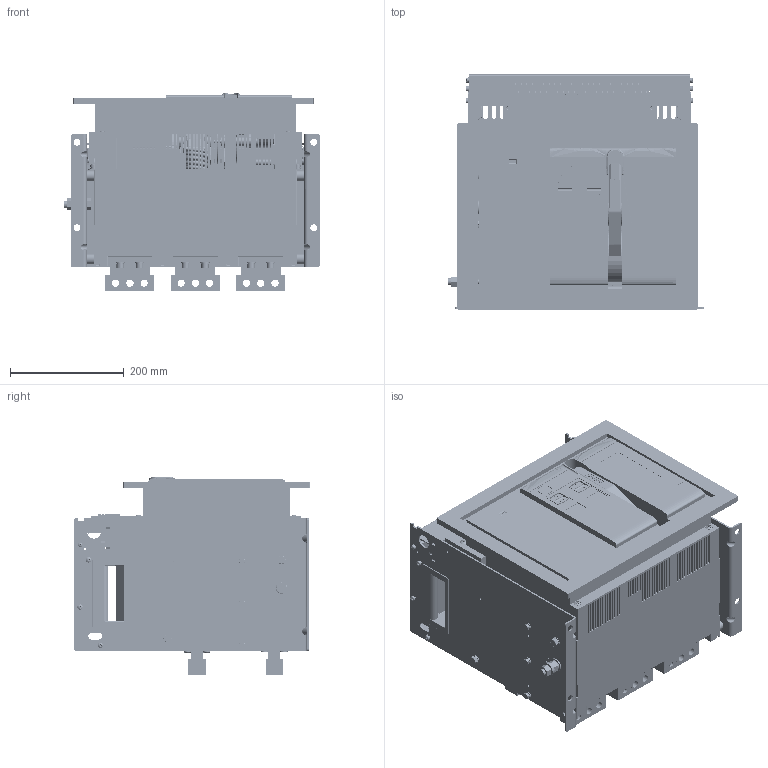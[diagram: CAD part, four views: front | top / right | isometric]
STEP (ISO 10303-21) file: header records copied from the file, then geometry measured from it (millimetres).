
FILE_DESCRIPTION (( 'STEP AP214' ), '1' );
FILE_NAME ('TGW1N-4000 F 3P 2900A-3200A.STEP', '2026-06-01T11:19:20', ( '' ), ( '' ), 'SwSTEP 2.0', 'SolidWorks 2024', '' );
FILE_SCHEMA (( 'AUTOMOTIVE_DESIGN' ));
Length unit declared in the file: millimetre
Products named in the file (233): GB_T93-8_AF6.stp; 8TZD_947_1002_AF10.stp; GB_T5782-M6X25_AF8.stp; 6TZD_262_6000_AF5.stp; 8TZD_300_1234_AF5.stp; 5TZD_580_1026_AF5_ASM.stp; 8TZD_941_1000_AF10.stp; 5TZD_558_1207.stp; GB_T5782-M6X25_AF10.stp; 8TZD_399_1002.stp; GB_T848-8_AF6.stp; 8TZD_260_1043_AF1.stp; GB_T9074_4-M5X10.stp; 8TZD_043_1102_AF1.stp; 111111111.stp; 5TZD_580_1024_AF4_ASM.stp; GB_T70_1-M8X70_AF6.stp; GB_T9074_4-M6X80_AF6.stp; 8TZD_742_6174.stp; 6TZD_262_6000_AF8.stp; 8TZD_212_1012_AF9.stp; GB_T6170-M6_AF6.stp; 8TZD_947_1002_AF13.stp; 5TZD_300_6022_ASM.stp; TENGEN_Рамка_3200-6300_Fixed; 8TZD_206_1018_AF7.stp; 44444444444.stp; GB_T819_1-M6X16_AF17.stp; 8TZD_941_1000_AF6.stp; 8TZD_947_1003.stp; 5TZD_050_1032_ASM.stp; TGW1N-4000 F 3P 2900A-3200A.stp; 5TZD_552_1181_AF3_ASM.stp; 2000SB_ASM.stp; GB_T6170-M6_AF10.stp; 5TZD_050_1013_ASM.stp; 8TZD_947_1002_AF11.stp; 8TZD_947_1002_AF14.stp; GB_T819_1-M6X16_AF9.stp; 8TZD_161_1041_AF1.stp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
Assembly tree (381 placements, depth 6):
  TGW1N-4000 F 3P 2900A-3200A
    TGW1N-4000 F 3P 2900A-3200A.stp
      5TZD_024_1265_AF1_ASM.stp
        5TZD_024_1263_AF1_ASM.stp
          8TZD_024_6038_AF1.stp
          8TZD_947_1003_AF2.stp
          8TZD_947_1003_AF3.stp
          8TZD_947_1002_AF8.stp
          8TZD_947_1002_AF9.stp
          8TZD_947_1002_AF10.stp
          8TZD_947_1002_AF11.stp
          8TZD_947_1002_AF12.stp
          GB_T809-M6X12-B_AF3.stp
          GB_T809-M6X12-B_AF4.stp
        5TZD_580_1026_AF3_ASM.stp
          5TZD_580_1024_AF3_ASM.stp
            8TZD_580_1091_AF3.stp
          5TZD_141_1019_AF3_ASM.stp
            8TZD_206_1018_AF7.stp
          8TZD_043_1228_AF3.stp
          8TZD_104_1084_AF3.stp
          GB_T845-ST6_3X16-C_AF18.stp
          GB_T845-ST6_3X16-C_AF19.stp
          GB_T845-ST6_3X16-C_AF20.stp
          GB_T5782-M6X25_AF6.stp
          GB_T6170-M6_AF6.stp
          GB_T5782-M6X25_AF7.stp
          GB_T6170-M6_AF7.stp
        5TZD_580_1026_AF4_ASM.stp
          5TZD_580_1024_AF4_ASM.stp
            8TZD_580_1091_AF4.stp
          8TZD_043_1228_AF4.stp
          GB_T5782-M6X25_AF8.stp
          GB_T6170-M6_AF8.stp
          GB_T5782-M6X25_AF9.stp
          GB_T6170-M6_AF9.stp
        5TZD_580_1026_AF5_ASM.stp
          5TZD_580_1024_AF5_ASM.stp
            8TZD_580_1091_AF5.stp
          5TZD_141_1020_AF5_ASM.stp
            8TZD_206_1018_AF10.stp
          8TZD_043_1228_AF5.stp
          8TZD_104_1084_AF5.stp
          8TZD_300_1234_AF5.stp
          GB_T845-ST6_3X16-C_AF33.stp
          GB_T845-ST6_3X16-C_AF34.stp
          GB_T845-ST6_3X16-C_AF35.stp
          GB_T5782-M6X25_AF10.stp
          GB_T6170-M6_AF10.stp
          GB_T5782-M6X25_AF11.stp
          GB_T6170-M6_AF11.stp
        8TZD_156_1099_AF3.stp
        8TZD_156_1099_AF4.stp
        8TZD_156_1099_AF5.stp
        GB_T97_1_6_AF11.stp
        GB_T818-M6X35_AF3.stp
        GB_T97_1_6_AF14.stp
        GB_T818-M6X35_AF4.stp
        GB_T97_1_6_AF17.stp
        GB_T818-M6X35_AF5.stp
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Bounding box: 450 x 414.69 x 348.5 mm (x, y, z)
Volume: 5893550.3 mm3; surface area: 3814583.2 mm2
Topology: 190 solids, 697 shells, 22936 faces, 57725 edges, 36224 vertices
Faces by surface type: plane 9453, cylinder 8062, torus 3330, cone 1108, bspline 608, sphere 375
Entity records: 730878 total; most frequent: CARTESIAN_POINT 272964, ORIENTED_EDGE 98761, DIRECTION 83647, EDGE_CURVE 49783, AXIS2_PLACEMENT_3D 32002, VERTEX_POINT 31544, EDGE_LOOP 22563, FACE_OUTER_BOUND 19650
